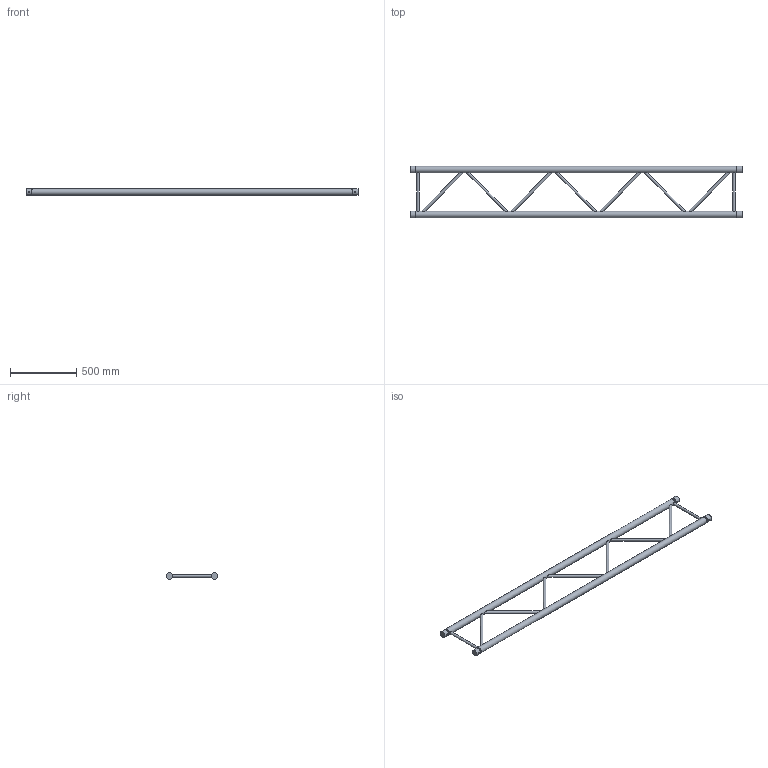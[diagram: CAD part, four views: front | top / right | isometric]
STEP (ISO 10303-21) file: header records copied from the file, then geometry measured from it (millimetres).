
FILE_DESCRIPTION(/* description */ (''),/* implementation_level */ '2;1');
FILE_NAME(/* name */ 'C:\Users\stephan\Desktop\Nieuwe map\H40L\111050158.stp',/* time_stamp */ '2016-09-12T12:52:52+02:00',/* author */ ('Stephan'),/* organization */ (''),/* preprocessor_version */ 'ST-DEVELOPER v15.6',/* originating_system */ 'Autodesk Inventor 2015',/* authorisation */ '');
FILE_SCHEMA (('AUTOMOTIVE_DESIGN { 1 0 10303 214 3 1 1 }'));
Length unit declared in the file: millimetre
Products named in the file (1): 160026985
Bounding box: 2500 x 387.3 x 48.3 mm (x, y, z)
Volume: 3482146.1 mm3; surface area: 1651605.8 mm2
Topology: 11 solids, 13 shells, 67 faces, 110 edges, 73 vertices
Faces by surface type: plane 38, cylinder 25, cone 4
Full cylindrical faces by diameter (mm): 10 x4, 20 x9, 41.8 x4, 42.3 x2, 48.3 x6
Entity records: 1791 total; most frequent: CARTESIAN_POINT 484, DIRECTION 240, ORIENTED_EDGE 148, AXIS2_PLACEMENT_3D 118, EDGE_LOOP 116, STYLED_ITEM 75, EDGE_CURVE 70, FACE_OUTER_BOUND 67
